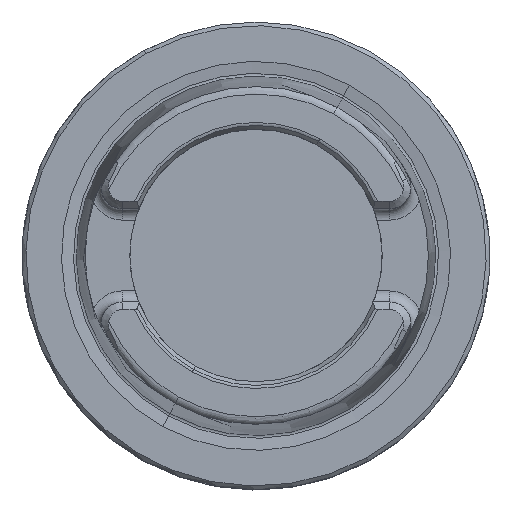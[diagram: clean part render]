
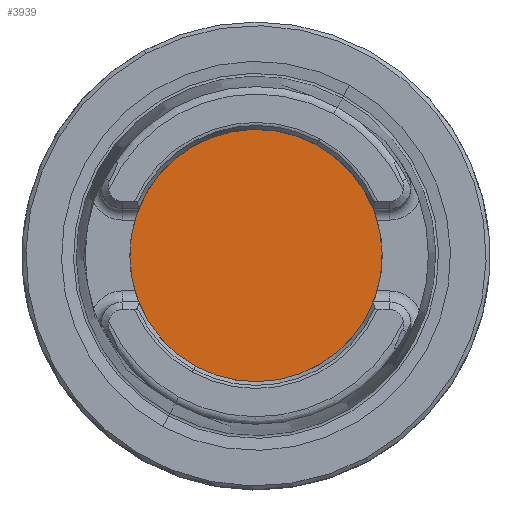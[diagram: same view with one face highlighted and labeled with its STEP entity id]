
A CAD part, top view. The second image highlights one B-rep face of the part: STEP entity #3939.
In plain terms, the highlighted planar face has unit normal (0, 0, 1).
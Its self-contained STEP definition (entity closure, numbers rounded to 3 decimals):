
#3919=AXIS2_PLACEMENT_3D('Plane Axis2P3D',#3916,#3917,#3918) ;
#3923=AXIS2_PLACEMENT_3D('Circle Axis2P3D',#3921,#3922,$) ;
#3932=AXIS2_PLACEMENT_3D('Circle Axis2P3D',#3930,#3931,$) ;
#3916=CARTESIAN_POINT('Axis2P3D Location',(0.,-15.75,20.)) ;
#3921=CARTESIAN_POINT('Axis2P3D Location',(0.,0.,20.)) ;
#3925=CARTESIAN_POINT('Vertex',(-8.15,-14.919,20.)) ;
#3927=CARTESIAN_POINT('Vertex',(8.15,14.919,20.)) ;
#3930=CARTESIAN_POINT('Axis2P3D Location',(0.,0.,20.)) ;
#3917=DIRECTION('Axis2P3D Direction',(0.,0.,-1.)) ;
#3918=DIRECTION('Axis2P3D XDirection',(-1.,0.,0.)) ;
#3922=DIRECTION('Axis2P3D Direction',(0.,0.,-1.)) ;
#3931=DIRECTION('Axis2P3D Direction',(0.,0.,-1.)) ;
#3936=ORIENTED_EDGE('',*,*,#3929,.T.) ;
#3937=ORIENTED_EDGE('',*,*,#3934,.T.) ;
#3939=ADVANCED_FACE('NO_CUT',(#3938),#3920,.F.) ;
#3924=CIRCLE('generated circle',#3923,17.) ;
#3933=CIRCLE('generated circle',#3932,17.) ;
#3929=EDGE_CURVE('',#3926,#3928,#3924,.F.) ;
#3934=EDGE_CURVE('',#3928,#3926,#3933,.F.) ;
#3935=EDGE_LOOP('',(#3936,#3937)) ;
#3938=FACE_OUTER_BOUND('',#3935,.T.) ;
#3920=PLANE('',#3919) ;
#3926=VERTEX_POINT('',#3925) ;
#3928=VERTEX_POINT('',#3927) ;
